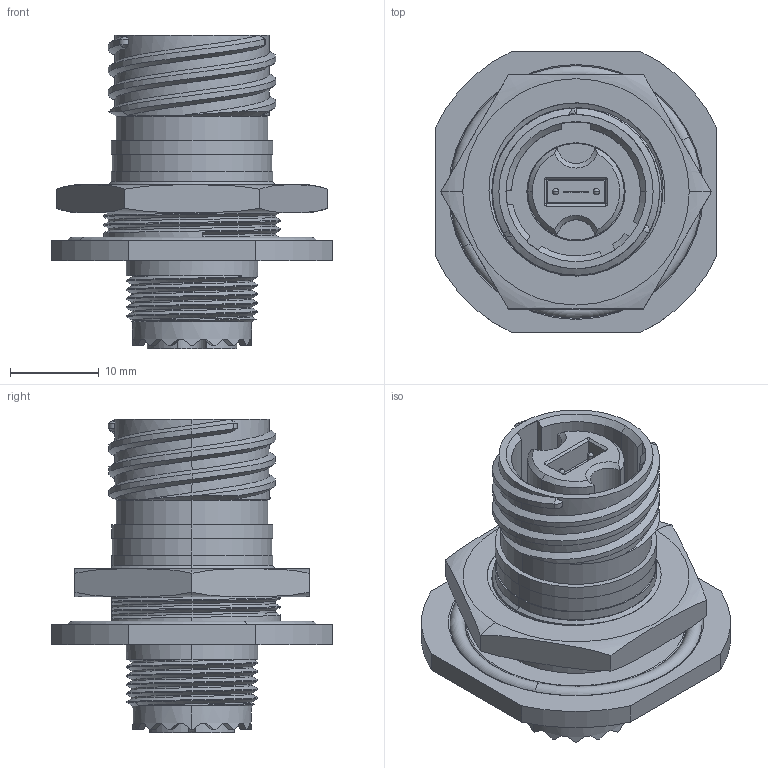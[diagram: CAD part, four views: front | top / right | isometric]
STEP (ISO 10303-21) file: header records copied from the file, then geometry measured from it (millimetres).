
FILE_DESCRIPTION (( 'STEP AP214' ), '1' );
FILE_NAME ('Q38MT-RJX-11XX-X.STEP', '2025-08-29T20:48:46', ( '' ), ( '' ), 'SwSTEP 2.0', 'SolidWorks 2024', '' );
FILE_SCHEMA (( 'AUTOMOTIVE_DESIGN' ));
Length unit declared in the file: inch
Products named in the file (1): Q38MT-RJX-11XX-X
Bounding box: 31.8 x 31.8 x 35.43 mm (x, y, z)
Volume: 9021.1 mm3; surface area: 8108.1 mm2
Topology: 2 solids, 2 shells, 437 faces, 1148 edges, 732 vertices
Faces by surface type: cylinder 170, plane 168, cone 45, bspline 32, torus 18, sphere 4
Entity records: 20715 total; most frequent: CARTESIAN_POINT 10632, ORIENTED_EDGE 2272, DIRECTION 1996, EDGE_CURVE 1136, AXIS2_PLACEMENT_3D 791, VERTEX_POINT 732, EDGE_LOOP 476, ADVANCED_FACE 437
